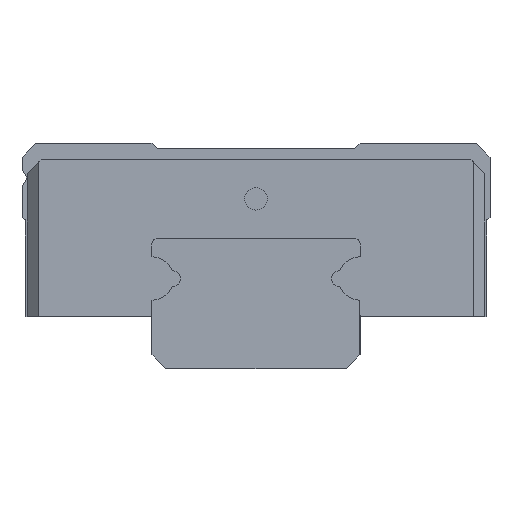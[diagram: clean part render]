
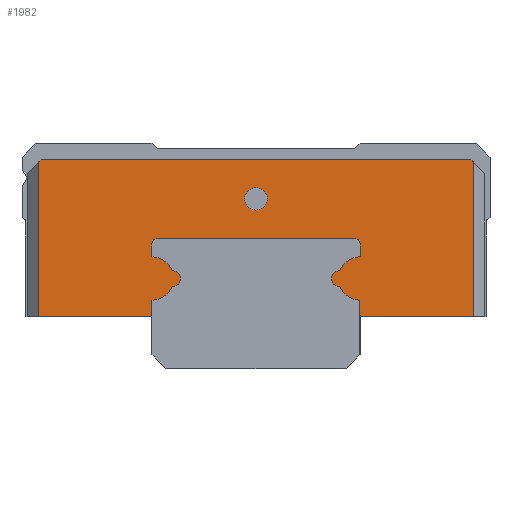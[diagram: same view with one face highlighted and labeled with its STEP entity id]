
A CAD part, left-side view. The second image highlights one B-rep face of the part: STEP entity #1982.
In plain terms, the highlighted planar face has unit normal (-1, 0, 0).
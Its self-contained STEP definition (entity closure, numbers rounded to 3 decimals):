
#1661=CARTESIAN_POINT('',(0.0,-12.4,12.05));
#1662=VERTEX_POINT('',#1661);
#1669=CARTESIAN_POINT('',(0.0,-12.55,11.9));
#1670=VERTEX_POINT('',#1669);
#1671=CARTESIAN_POINT('',(0.0,-12.4,12.05));
#1672=DIRECTION('',(0.0,-0.707,-0.707));
#1673=VECTOR('',#1672,0.212);
#1674=LINE('',#1671,#1673);
#1675=EDGE_CURVE('',#1662,#1670,#1674,.T.);
#1746=CARTESIAN_POINT('',(0.0,12.55,11.9));
#1747=VERTEX_POINT('',#1746);
#1748=CARTESIAN_POINT('',(0.0,12.4,12.05));
#1749=VERTEX_POINT('',#1748);
#1750=CARTESIAN_POINT('',(0.0,12.55,11.9));
#1751=DIRECTION('',(0.0,-0.707,0.707));
#1752=VECTOR('',#1751,0.212);
#1753=LINE('',#1750,#1752);
#1754=EDGE_CURVE('',#1747,#1749,#1753,.T.);
#1810=CARTESIAN_POINT('',(0.0,-12.4,12.05));
#1811=DIRECTION('',(0.0,1.0,0.0));
#1812=VECTOR('',#1811,24.8);
#1813=LINE('',#1810,#1812);
#1814=EDGE_CURVE('',#1662,#1749,#1813,.T.);
#1819=CARTESIAN_POINT('',(0.0,0.,7.824));
#1820=DIRECTION('',(1.0,0.0,0.0));
#1821=DIRECTION('',(0.0,0.0,-1.0));
#1822=AXIS2_PLACEMENT_3D('',#1819,#1820,#1821);
#1823=PLANE('',#1822);
#1824=ORIENTED_EDGE('',*,*,#1675,.F.);
#1825=ORIENTED_EDGE('',*,*,#1814,.T.);
#1826=ORIENTED_EDGE('',*,*,#1754,.F.);
#1827=CARTESIAN_POINT('',(0.0,12.55,3.));
#1828=VERTEX_POINT('',#1827);
#1829=CARTESIAN_POINT('',(0.0,12.55,11.9));
#1830=DIRECTION('',(0.0,0.0,-1.0));
#1831=VECTOR('',#1830,8.9);
#1832=LINE('',#1829,#1831);
#1833=EDGE_CURVE('',#1747,#1828,#1832,.T.);
#1834=ORIENTED_EDGE('',*,*,#1833,.T.);
#1835=CARTESIAN_POINT('',(0.0,6.,3.));
#1836=VERTEX_POINT('',#1835);
#1837=CARTESIAN_POINT('',(0.0,12.55,3.));
#1838=DIRECTION('',(0.0,-1.0,0.0));
#1839=VECTOR('',#1838,6.55);
#1840=LINE('',#1837,#1839);
#1841=EDGE_CURVE('',#1828,#1836,#1840,.T.);
#1842=ORIENTED_EDGE('',*,*,#1841,.T.);
#1843=CARTESIAN_POINT('',(0.0,6.,3.95));
#1844=VERTEX_POINT('',#1843);
#1845=CARTESIAN_POINT('',(0.0,6.,3.));
#1846=DIRECTION('',(0.0,0.0,1.0));
#1847=VECTOR('',#1846,0.95);
#1848=LINE('',#1845,#1847);
#1849=EDGE_CURVE('',#1836,#1844,#1848,.T.);
#1850=ORIENTED_EDGE('',*,*,#1849,.T.);
#1851=CARTESIAN_POINT('',(0.0,4.833,4.751));
#1852=VERTEX_POINT('',#1851);
#1853=CARTESIAN_POINT('',(0.0,6.,5.2));
#1854=DIRECTION('',(-1.,0.0,0.0));
#1855=DIRECTION('',(0.0,0.933,0.359));
#1856=AXIS2_PLACEMENT_3D('',#1853,#1854,#1855);
#1857=CIRCLE('',#1856,1.25);
#1858=EDGE_CURVE('',#1844,#1852,#1857,.T.);
#1859=ORIENTED_EDGE('',*,*,#1858,.T.);
#1860=CARTESIAN_POINT('',(0.0,4.833,5.649));
#1861=VERTEX_POINT('',#1860);
#1862=CARTESIAN_POINT('',(0.0,4.8,5.2));
#1863=DIRECTION('',(-1.,0.0,0.0));
#1864=DIRECTION('',(0.0,-0.074,-0.997));
#1865=AXIS2_PLACEMENT_3D('',#1862,#1863,#1864);
#1866=CIRCLE('',#1865,0.45);
#1867=EDGE_CURVE('',#1852,#1861,#1866,.T.);
#1868=ORIENTED_EDGE('',*,*,#1867,.T.);
#1869=CARTESIAN_POINT('',(0.0,6.,6.45));
#1870=VERTEX_POINT('',#1869);
#1871=CARTESIAN_POINT('',(0.0,6.,5.2));
#1872=DIRECTION('',(-1.0,0.0,0.0));
#1873=DIRECTION('',(0.0,0.0,-1.0));
#1874=AXIS2_PLACEMENT_3D('',#1871,#1872,#1873);
#1875=CIRCLE('',#1874,1.25);
#1876=EDGE_CURVE('',#1861,#1870,#1875,.T.);
#1877=ORIENTED_EDGE('',*,*,#1876,.T.);
#1878=CARTESIAN_POINT('',(0.0,6.,7.2));
#1879=VERTEX_POINT('',#1878);
#1880=CARTESIAN_POINT('',(0.0,6.,6.45));
#1881=DIRECTION('',(0.0,0.0,1.0));
#1882=VECTOR('',#1881,0.75);
#1883=LINE('',#1880,#1882);
#1884=EDGE_CURVE('',#1870,#1879,#1883,.T.);
#1885=ORIENTED_EDGE('',*,*,#1884,.T.);
#1886=CARTESIAN_POINT('',(0.0,5.7,7.5));
#1887=VERTEX_POINT('',#1886);
#1888=CARTESIAN_POINT('',(0.0,5.7,7.2));
#1889=DIRECTION('',(1.0,0.0,0.0));
#1890=DIRECTION('',(0.0,1.0,0.0));
#1891=AXIS2_PLACEMENT_3D('',#1888,#1889,#1890);
#1892=CIRCLE('',#1891,0.3);
#1893=EDGE_CURVE('',#1879,#1887,#1892,.T.);
#1894=ORIENTED_EDGE('',*,*,#1893,.T.);
#1895=CARTESIAN_POINT('',(0.0,-5.7,7.5));
#1896=VERTEX_POINT('',#1895);
#1897=CARTESIAN_POINT('',(0.0,5.7,7.5));
#1898=DIRECTION('',(0.0,-1.0,0.0));
#1899=VECTOR('',#1898,11.4);
#1900=LINE('',#1897,#1899);
#1901=EDGE_CURVE('',#1887,#1896,#1900,.T.);
#1902=ORIENTED_EDGE('',*,*,#1901,.T.);
#1903=CARTESIAN_POINT('',(0.0,-6.,7.2));
#1904=VERTEX_POINT('',#1903);
#1905=CARTESIAN_POINT('',(0.0,-5.7,7.2));
#1906=DIRECTION('',(1.0,0.0,0.0));
#1907=DIRECTION('',(0.0,0.0,1.0));
#1908=AXIS2_PLACEMENT_3D('',#1905,#1906,#1907);
#1909=CIRCLE('',#1908,0.3);
#1910=EDGE_CURVE('',#1896,#1904,#1909,.T.);
#1911=ORIENTED_EDGE('',*,*,#1910,.T.);
#1912=CARTESIAN_POINT('',(0.0,-6.,6.45));
#1913=VERTEX_POINT('',#1912);
#1914=CARTESIAN_POINT('',(0.0,-6.,7.2));
#1915=DIRECTION('',(0.0,0.0,-1.0));
#1916=VECTOR('',#1915,0.75);
#1917=LINE('',#1914,#1916);
#1918=EDGE_CURVE('',#1904,#1913,#1917,.T.);
#1919=ORIENTED_EDGE('',*,*,#1918,.T.);
#1920=CARTESIAN_POINT('',(0.0,-4.833,5.649));
#1921=VERTEX_POINT('',#1920);
#1922=CARTESIAN_POINT('',(0.0,-6.,5.2));
#1923=DIRECTION('',(-1.,0.0,0.0));
#1924=DIRECTION('',(0.0,-0.933,-0.359));
#1925=AXIS2_PLACEMENT_3D('',#1922,#1923,#1924);
#1926=CIRCLE('',#1925,1.25);
#1927=EDGE_CURVE('',#1913,#1921,#1926,.T.);
#1928=ORIENTED_EDGE('',*,*,#1927,.T.);
#1929=CARTESIAN_POINT('',(0.0,-4.833,4.751));
#1930=VERTEX_POINT('',#1929);
#1931=CARTESIAN_POINT('',(0.0,-4.8,5.2));
#1932=DIRECTION('',(-1.,0.0,0.0));
#1933=DIRECTION('',(0.0,0.074,0.997));
#1934=AXIS2_PLACEMENT_3D('',#1931,#1932,#1933);
#1935=CIRCLE('',#1934,0.45);
#1936=EDGE_CURVE('',#1921,#1930,#1935,.T.);
#1937=ORIENTED_EDGE('',*,*,#1936,.T.);
#1938=CARTESIAN_POINT('',(0.0,-6.,3.95));
#1939=VERTEX_POINT('',#1938);
#1940=CARTESIAN_POINT('',(0.0,-6.,5.2));
#1941=DIRECTION('',(-1.0,0.0,0.0));
#1942=DIRECTION('',(0.0,0.0,1.0));
#1943=AXIS2_PLACEMENT_3D('',#1940,#1941,#1942);
#1944=CIRCLE('',#1943,1.25);
#1945=EDGE_CURVE('',#1930,#1939,#1944,.T.);
#1946=ORIENTED_EDGE('',*,*,#1945,.T.);
#1947=CARTESIAN_POINT('',(0.0,-6.,3.));
#1948=VERTEX_POINT('',#1947);
#1949=CARTESIAN_POINT('',(0.0,-6.,3.95));
#1950=DIRECTION('',(0.0,0.0,-1.0));
#1951=VECTOR('',#1950,0.95);
#1952=LINE('',#1949,#1951);
#1953=EDGE_CURVE('',#1939,#1948,#1952,.T.);
#1954=ORIENTED_EDGE('',*,*,#1953,.T.);
#1955=CARTESIAN_POINT('',(0.0,-12.55,3.));
#1956=VERTEX_POINT('',#1955);
#1957=CARTESIAN_POINT('',(0.0,-6.,3.));
#1958=DIRECTION('',(0.0,-1.0,0.0));
#1959=VECTOR('',#1958,6.55);
#1960=LINE('',#1957,#1959);
#1961=EDGE_CURVE('',#1948,#1956,#1960,.T.);
#1962=ORIENTED_EDGE('',*,*,#1961,.T.);
#1963=CARTESIAN_POINT('',(0.0,-12.55,3.));
#1964=DIRECTION('',(0.0,0.0,1.0));
#1965=VECTOR('',#1964,8.9);
#1966=LINE('',#1963,#1965);
#1967=EDGE_CURVE('',#1956,#1670,#1966,.T.);
#1968=ORIENTED_EDGE('',*,*,#1967,.T.);
#1969=EDGE_LOOP('',(#1824,#1825,#1826,#1834,#1842,#1850,#1859,#1868,#1877,#1885,#1894,#1902,#1911,#1919,#1928,#1937,#1946,#1954,#1962,#1968));
#1970=FACE_OUTER_BOUND('',#1969,.T.);
#1971=CARTESIAN_POINT('',(0.0,0.65,9.8));
#1972=VERTEX_POINT('',#1971);
#1973=CARTESIAN_POINT('',(0.0,0.,9.8));
#1974=DIRECTION('',(1.0,0.0,0.0));
#1975=DIRECTION('',(0.0,-1.0,0.0));
#1976=AXIS2_PLACEMENT_3D('',#1973,#1974,#1975);
#1977=CIRCLE('',#1976,0.65);
#1978=EDGE_CURVE('',#1972,#1972,#1977,.T.);
#1979=ORIENTED_EDGE('',*,*,#1978,.T.);
#1980=EDGE_LOOP('',(#1979));
#1981=FACE_BOUND('',#1980,.T.);
#1982=ADVANCED_FACE('',(#1970,#1981),#1823,.F.);
